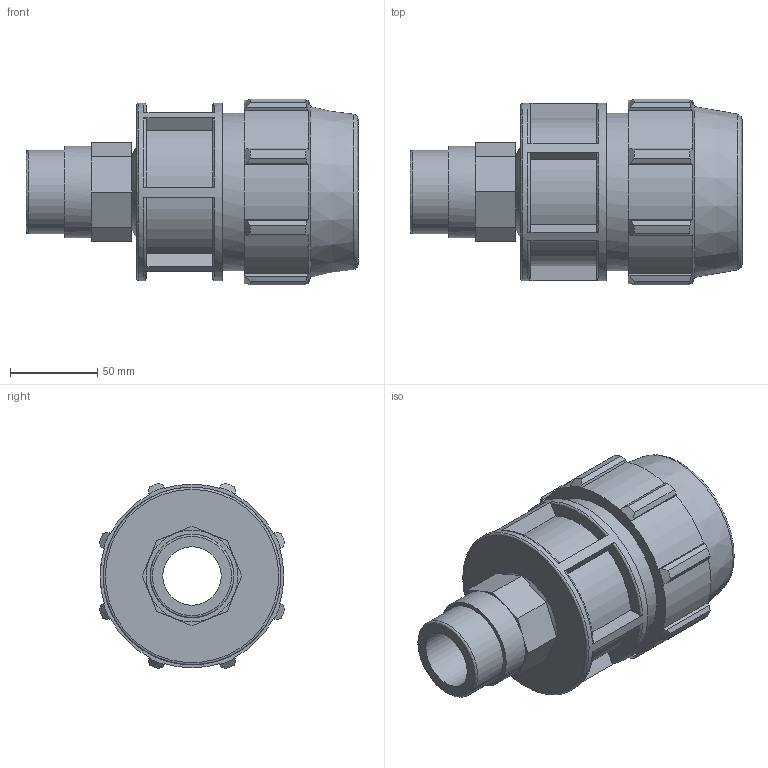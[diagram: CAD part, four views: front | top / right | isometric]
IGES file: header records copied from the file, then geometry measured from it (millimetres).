
Global section: file name: 077200063015_187200063015_0772060630150A.ipt; native system: Autodesk Inventor 2015; preprocessor: unknown; author: KIM; date: 20170606.174312; units: millimetre
Bounding box: 190 x 106.32 x 106.32 mm (x, y, z)
Volume: 591146.5 mm3; surface area: 108793.6 mm2
Topology: 1 solids, 1 shells, 137 faces, 367 edges, 244 vertices
Faces by surface type: plane 81, cylinder 26, revolution 19, cone 11
Full cylindrical faces by diameter (mm): 47.803 x1, 52.583 x1, 90.4 x1, 101.7 x1
